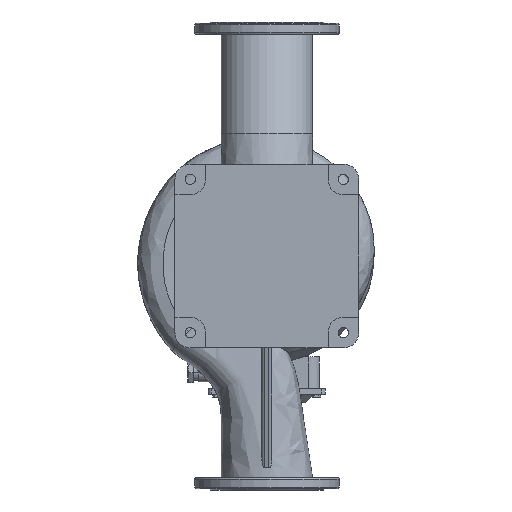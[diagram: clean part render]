
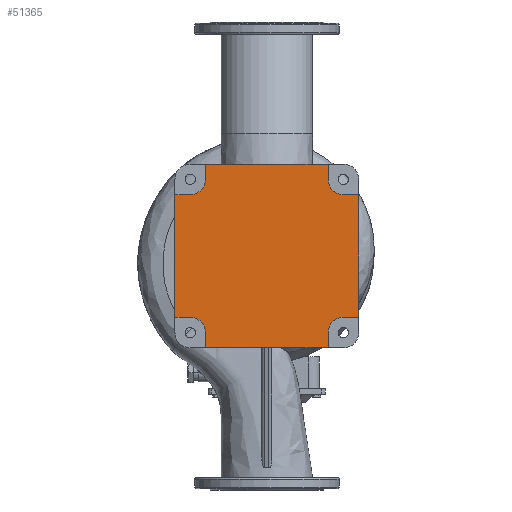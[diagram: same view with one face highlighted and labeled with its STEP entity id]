
A CAD part, front view. The second image highlights one B-rep face of the part: STEP entity #51365.
In plain terms, the highlighted planar face has unit normal (0, -1, 0).
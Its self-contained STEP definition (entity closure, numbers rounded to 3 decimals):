
#255 = LINE ( 'NONE', #25619, #63850 ) ;
#581 = CARTESIAN_POINT ( 'NONE',  ( -144., -265., 216. ) ) ;
#814 = EDGE_CURVE ( 'NONE', #46362, #57171, #54956, .T. ) ;
#1321 = CARTESIAN_POINT ( 'NONE',  ( -180., -265., -180. ) ) ;
#1575 = LINE ( 'NONE', #63819, #34602 ) ;
#1801 = ORIENTED_EDGE ( 'NONE', *, *, #20467, .T. ) ;
#2800 = VECTOR ( 'NONE', #24680, 1000. ) ;
#3125 = EDGE_CURVE ( 'NONE', #47742, #64209, #65876, .T. ) ;
#3783 = VECTOR ( 'NONE', #73726, 1000. ) ;
#3919 = CARTESIAN_POINT ( 'NONE',  ( 144., -265., -180. ) ) ;
#5467 = VECTOR ( 'NONE', #77645, 1000. ) ;
#5590 = CARTESIAN_POINT ( 'NONE',  ( -216., -265., 144. ) ) ;
#5913 = ORIENTED_EDGE ( 'NONE', *, *, #44650, .T. ) ;
#6777 = EDGE_CURVE ( 'NONE', #76735, #40333, #27674, .T. ) ;
#6893 = DIRECTION ( 'NONE',  ( 0., 1., 0. ) ) ;
#7019 = AXIS2_PLACEMENT_3D ( 'NONE', #1321, #7062, #13624 ) ;
#7062 = DIRECTION ( 'NONE',  ( 0., 1., 0. ) ) ;
#7144 = DIRECTION ( 'NONE',  ( 0., 1., 0. ) ) ;
#7596 = DIRECTION ( 'NONE',  ( 1., 0., 0. ) ) ;
#7959 = LINE ( 'NONE', #581, #49199 ) ;
#8847 = CARTESIAN_POINT ( 'NONE',  ( 180., -265., -180. ) ) ;
#8885 = CARTESIAN_POINT ( 'NONE',  ( 144., -265., -180. ) ) ;
#9193 = CARTESIAN_POINT ( 'NONE',  ( 216., -265., 144. ) ) ;
#10159 = AXIS2_PLACEMENT_3D ( 'NONE', #80456, #7144, #38285 ) ;
#12888 = DIRECTION ( 'NONE',  ( -1., 0., 0. ) ) ;
#13624 = DIRECTION ( 'NONE',  ( 1., 0., 0. ) ) ;
#15657 = ORIENTED_EDGE ( 'NONE', *, *, #15810, .T. ) ;
#15810 = EDGE_CURVE ( 'NONE', #18511, #35195, #24056, .T. ) ;
#16255 = LINE ( 'NONE', #47022, #5467 ) ;
#18511 = VERTEX_POINT ( 'NONE', #62794 ) ;
#19582 = DIRECTION ( 'NONE',  ( 0., 0., 1. ) ) ;
#19828 = LINE ( 'NONE', #44822, #37400 ) ;
#20027 = EDGE_CURVE ( 'NONE', #40333, #47742, #56275, .T. ) ;
#20467 = EDGE_CURVE ( 'NONE', #80511, #66414, #57994, .T. ) ;
#20710 = DIRECTION ( 'NONE',  ( 0., 0., -1. ) ) ;
#21619 = VERTEX_POINT ( 'NONE', #63826 ) ;
#22339 = EDGE_CURVE ( 'NONE', #74275, #46362, #30992, .T. ) ;
#22560 = CARTESIAN_POINT ( 'NONE',  ( -180., -265., -144. ) ) ;
#22743 = LINE ( 'NONE', #3919, #56102 ) ;
#22985 = VECTOR ( 'NONE', #20710, 1000. ) ;
#24056 = CIRCLE ( 'NONE', #48940, 36. ) ;
#24680 = DIRECTION ( 'NONE',  ( -1., 0., 0. ) ) ;
#25619 = CARTESIAN_POINT ( 'NONE',  ( -180., -265., -144. ) ) ;
#26297 = PLANE ( 'NONE',  #7019 ) ;
#26852 = CARTESIAN_POINT ( 'NONE',  ( -216., -265., -144. ) ) ;
#27674 = CIRCLE ( 'NONE', #70771, 36. ) ;
#27851 = VECTOR ( 'NONE', #37655, 1000. ) ;
#28579 = CARTESIAN_POINT ( 'NONE',  ( 180., -265., 144. ) ) ;
#29919 = CARTESIAN_POINT ( 'NONE',  ( -216., -265., -144. ) ) ;
#30343 = CARTESIAN_POINT ( 'NONE',  ( 144., -265., 180. ) ) ;
#30992 = CIRCLE ( 'NONE', #41490, 36. ) ;
#32239 = DIRECTION ( 'NONE',  ( 0., 0., 1. ) ) ;
#33152 = ORIENTED_EDGE ( 'NONE', *, *, #20027, .T. ) ;
#33732 = CARTESIAN_POINT ( 'NONE',  ( 216., -265., -144. ) ) ;
#34231 = DIRECTION ( 'NONE',  ( 0., 1., 0. ) ) ;
#34602 = VECTOR ( 'NONE', #58909, 1000. ) ;
#35195 = VERTEX_POINT ( 'NONE', #59237 ) ;
#35735 = EDGE_CURVE ( 'NONE', #77768, #70620, #62324, .T. ) ;
#36077 = ORIENTED_EDGE ( 'NONE', *, *, #54952, .T. ) ;
#36701 = VECTOR ( 'NONE', #59333, 1000. ) ;
#36888 = VERTEX_POINT ( 'NONE', #80164 ) ;
#37256 = CARTESIAN_POINT ( 'NONE',  ( -180., -265., 144. ) ) ;
#37400 = VECTOR ( 'NONE', #39885, 1000. ) ;
#37655 = DIRECTION ( 'NONE',  ( -1., 0., 0. ) ) ;
#38285 = DIRECTION ( 'NONE',  ( 0., 0., 1. ) ) ;
#38402 = CARTESIAN_POINT ( 'NONE',  ( -180., -265., 180. ) ) ;
#39885 = DIRECTION ( 'NONE',  ( 0., 0., -1. ) ) ;
#40333 = VERTEX_POINT ( 'NONE', #78699 ) ;
#41063 = ORIENTED_EDGE ( 'NONE', *, *, #22339, .T. ) ;
#41490 = AXIS2_PLACEMENT_3D ( 'NONE', #8847, #34231, #53895 ) ;
#43536 = EDGE_CURVE ( 'NONE', #70620, #58349, #53315, .T. ) ;
#44650 = EDGE_CURVE ( 'NONE', #66414, #76735, #255, .T. ) ;
#44822 = CARTESIAN_POINT ( 'NONE',  ( -144., -265., 180. ) ) ;
#45516 = ORIENTED_EDGE ( 'NONE', *, *, #3125, .T. ) ;
#46362 = VERTEX_POINT ( 'NONE', #58284 ) ;
#46997 = EDGE_CURVE ( 'NONE', #58349, #21619, #1575, .T. ) ;
#47022 = CARTESIAN_POINT ( 'NONE',  ( 216., -265., 144. ) ) ;
#47091 = CARTESIAN_POINT ( 'NONE',  ( 144., -265., -216. ) ) ;
#47742 = VERTEX_POINT ( 'NONE', #76005 ) ;
#48069 = ORIENTED_EDGE ( 'NONE', *, *, #43536, .T. ) ;
#48452 = ORIENTED_EDGE ( 'NONE', *, *, #61366, .T. ) ;
#48940 = AXIS2_PLACEMENT_3D ( 'NONE', #38402, #68284, #32239 ) ;
#49199 = VECTOR ( 'NONE', #12888, 1000. ) ;
#51365 = ADVANCED_FACE ( 'NONE', ( #58651 ), #26297, .F. ) ;
#53315 = CIRCLE ( 'NONE', #10159, 36. ) ;
#53895 = DIRECTION ( 'NONE',  ( 0., 0., 1. ) ) ;
#54952 = EDGE_CURVE ( 'NONE', #57171, #77768, #16255, .T. ) ;
#54956 = LINE ( 'NONE', #62660, #3783 ) ;
#56102 = VECTOR ( 'NONE', #66957, 1000. ) ;
#56214 = CARTESIAN_POINT ( 'NONE',  ( 180., -265., 144. ) ) ;
#56275 = LINE ( 'NONE', #68519, #56955 ) ;
#56638 = ORIENTED_EDGE ( 'NONE', *, *, #6777, .T. ) ;
#56955 = VECTOR ( 'NONE', #76252, 1000. ) ;
#57171 = VERTEX_POINT ( 'NONE', #33732 ) ;
#57994 = LINE ( 'NONE', #26852, #22985 ) ;
#58284 = CARTESIAN_POINT ( 'NONE',  ( 180., -265., -144. ) ) ;
#58349 = VERTEX_POINT ( 'NONE', #30343 ) ;
#58651 = FACE_OUTER_BOUND ( 'NONE', #61790, .T. ) ;
#58909 = DIRECTION ( 'NONE',  ( 0., 0., 1. ) ) ;
#59237 = CARTESIAN_POINT ( 'NONE',  ( -180., -265., 144. ) ) ;
#59333 = DIRECTION ( 'NONE',  ( 1., 0., 0. ) ) ;
#59974 = ORIENTED_EDGE ( 'NONE', *, *, #46997, .T. ) ;
#61366 = EDGE_CURVE ( 'NONE', #21619, #36888, #7959, .T. ) ;
#61790 = EDGE_LOOP ( 'NONE', ( #56638, #33152, #45516, #68000, #41063, #66908, #36077, #64752, #48069, #59974, #48452, #67027, #15657, #69522, #1801, #5913 ) ) ;
#62324 = LINE ( 'NONE', #56214, #2800 ) ;
#62660 = CARTESIAN_POINT ( 'NONE',  ( 180., -265., -144. ) ) ;
#62794 = CARTESIAN_POINT ( 'NONE',  ( -144., -265., 180. ) ) ;
#63028 = LINE ( 'NONE', #37256, #27851 ) ;
#63819 = CARTESIAN_POINT ( 'NONE',  ( 144., -265., 180. ) ) ;
#63826 = CARTESIAN_POINT ( 'NONE',  ( 144., -265., 216. ) ) ;
#63850 = VECTOR ( 'NONE', #7596, 1000. ) ;
#64209 = VERTEX_POINT ( 'NONE', #80915 ) ;
#64752 = ORIENTED_EDGE ( 'NONE', *, *, #35735, .T. ) ;
#65869 = EDGE_CURVE ( 'NONE', #36888, #18511, #19828, .T. ) ;
#65876 = LINE ( 'NONE', #47091, #36701 ) ;
#66414 = VERTEX_POINT ( 'NONE', #29919 ) ;
#66908 = ORIENTED_EDGE ( 'NONE', *, *, #814, .T. ) ;
#66957 = DIRECTION ( 'NONE',  ( 0., 0., 1. ) ) ;
#67027 = ORIENTED_EDGE ( 'NONE', *, *, #65869, .T. ) ;
#68000 = ORIENTED_EDGE ( 'NONE', *, *, #71463, .T. ) ;
#68284 = DIRECTION ( 'NONE',  ( 0., 1., 0. ) ) ;
#68519 = CARTESIAN_POINT ( 'NONE',  ( -144., -265., -180. ) ) ;
#69522 = ORIENTED_EDGE ( 'NONE', *, *, #76767, .T. ) ;
#70620 = VERTEX_POINT ( 'NONE', #28579 ) ;
#70771 = AXIS2_PLACEMENT_3D ( 'NONE', #75631, #6893, #19582 ) ;
#71463 = EDGE_CURVE ( 'NONE', #64209, #74275, #22743, .T. ) ;
#73726 = DIRECTION ( 'NONE',  ( 1., 0., 0. ) ) ;
#74275 = VERTEX_POINT ( 'NONE', #8885 ) ;
#75631 = CARTESIAN_POINT ( 'NONE',  ( -180., -265., -180. ) ) ;
#76005 = CARTESIAN_POINT ( 'NONE',  ( -144., -265., -216. ) ) ;
#76252 = DIRECTION ( 'NONE',  ( 0., 0., -1. ) ) ;
#76735 = VERTEX_POINT ( 'NONE', #22560 ) ;
#76767 = EDGE_CURVE ( 'NONE', #35195, #80511, #63028, .T. ) ;
#77645 = DIRECTION ( 'NONE',  ( 0., 0., 1. ) ) ;
#77768 = VERTEX_POINT ( 'NONE', #9193 ) ;
#78699 = CARTESIAN_POINT ( 'NONE',  ( -144., -265., -180. ) ) ;
#80164 = CARTESIAN_POINT ( 'NONE',  ( -144., -265., 216. ) ) ;
#80456 = CARTESIAN_POINT ( 'NONE',  ( 180., -265., 180. ) ) ;
#80511 = VERTEX_POINT ( 'NONE', #5590 ) ;
#80915 = CARTESIAN_POINT ( 'NONE',  ( 144., -265., -216. ) ) ;
